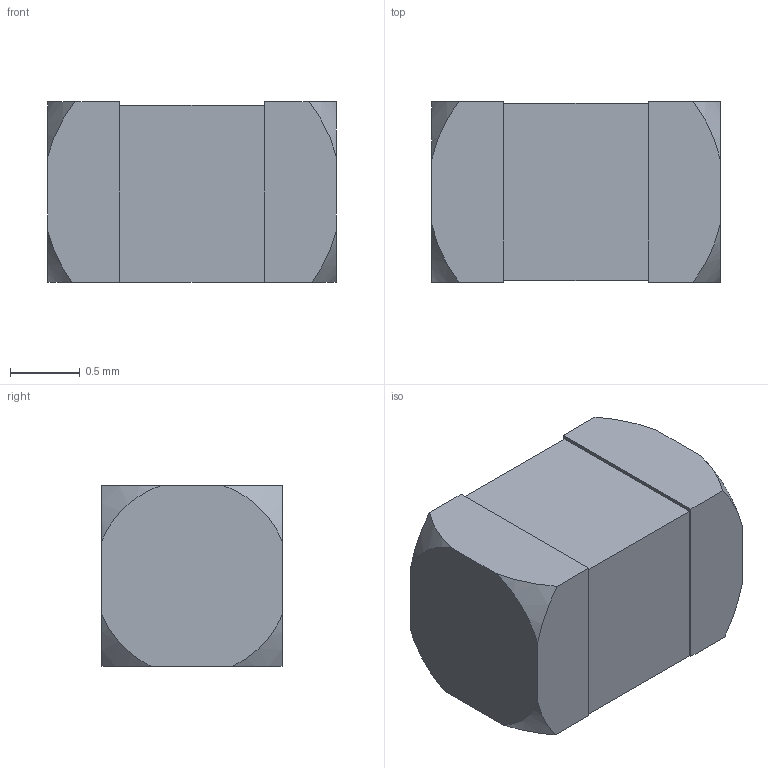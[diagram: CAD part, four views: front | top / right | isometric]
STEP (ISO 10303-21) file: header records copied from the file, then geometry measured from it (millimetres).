
FILE_DESCRIPTION(('FreeCAD Model'),'2;1');
FILE_NAME('Open CASCADE Shape Model','2021-06-29T02:50:02',('Author'),( ''),'Open CASCADE STEP processor 7.5','FreeCAD','Unknown');
FILE_SCHEMA(('AUTOMOTIVE_DESIGN { 1 0 10303 214 1 1 1 1 }'));
Length unit declared in the file: millimetre
Products named in the file (1): intersection
Bounding box: 2.07 x 1.3 x 1.3 mm (x, y, z)
Volume: 3.4 mm3; surface area: 13.8 mm2
Topology: 1 solids, 1 shells, 30 faces, 76 edges, 48 vertices
Faces by surface type: bspline 24, plane 6
Entity records: 3040 total; most frequent: CARTESIAN_POINT 1737, B_SPLINE_CURVE_WITH_KNOTS 204, ORIENTED_EDGE 152, PCURVE 152, DEFINITIONAL_REPRESENTATION 152, EDGE_CURVE 76, SURFACE_CURVE 76, VERTEX_POINT 48
